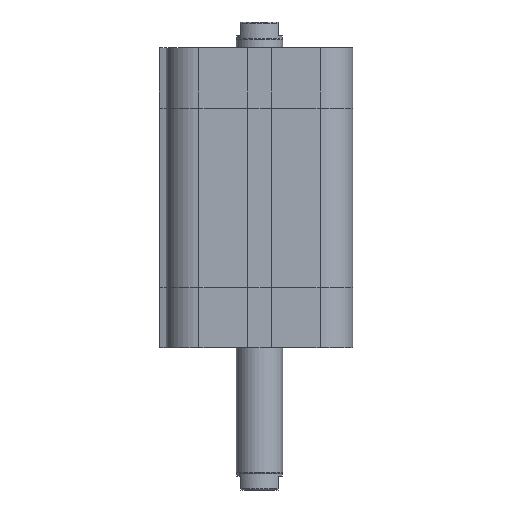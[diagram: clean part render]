
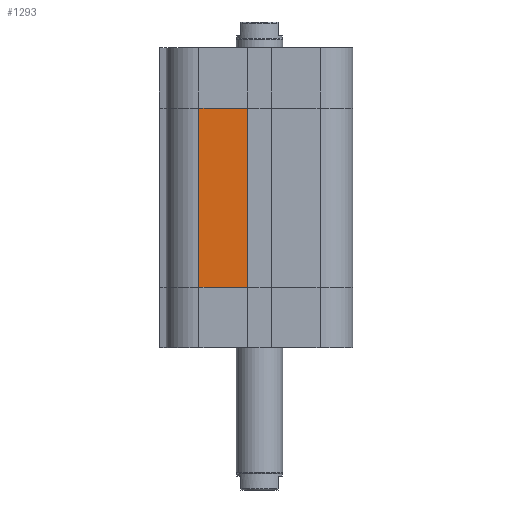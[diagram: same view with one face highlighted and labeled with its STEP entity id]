
A CAD part, left-side view. The second image highlights one B-rep face of the part: STEP entity #1293.
In plain terms, the highlighted planar face has unit normal (-1, 0, 0).
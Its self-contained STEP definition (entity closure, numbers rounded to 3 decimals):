
#1204=CARTESIAN_POINT('',(-20.,13.,13.));
#1205=VERTEX_POINT('',#1204);
#1213=CARTESIAN_POINT('',(-20.,13.,51.5));
#1214=VERTEX_POINT('',#1213);
#1215=CARTESIAN_POINT('',(-20.,13.,13.));
#1216=DIRECTION('',(0.0,0.0,1.0));
#1217=VECTOR('',#1216,38.5);
#1218=LINE('',#1215,#1217);
#1219=EDGE_CURVE('',#1205,#1214,#1218,.T.);
#1263=CARTESIAN_POINT('',(-20.0,2.6,0.0));
#1264=DIRECTION('',(-1.0,0.0,0.0));
#1265=DIRECTION('',(0.0,0.0,1.0));
#1266=AXIS2_PLACEMENT_3D('',#1263,#1264,#1265);
#1267=PLANE('',#1266);
#1268=CARTESIAN_POINT('',(-20.0,2.6,13.));
#1269=VERTEX_POINT('',#1268);
#1270=CARTESIAN_POINT('',(-20.,13.,13.));
#1271=DIRECTION('',(0.0,-1.0,0.0));
#1272=VECTOR('',#1271,10.4);
#1273=LINE('',#1270,#1272);
#1274=EDGE_CURVE('',#1205,#1269,#1273,.T.);
#1275=ORIENTED_EDGE('',*,*,#1274,.T.);
#1276=CARTESIAN_POINT('',(-20.0,2.6,51.5));
#1277=VERTEX_POINT('',#1276);
#1278=CARTESIAN_POINT('',(-20.0,2.6,13.));
#1279=DIRECTION('',(0.0,0.0,1.0));
#1280=VECTOR('',#1279,38.5);
#1281=LINE('',#1278,#1280);
#1282=EDGE_CURVE('',#1269,#1277,#1281,.T.);
#1283=ORIENTED_EDGE('',*,*,#1282,.T.);
#1284=CARTESIAN_POINT('',(-20.,13.,51.5));
#1285=DIRECTION('',(0.0,-1.0,0.0));
#1286=VECTOR('',#1285,10.4);
#1287=LINE('',#1284,#1286);
#1288=EDGE_CURVE('',#1214,#1277,#1287,.T.);
#1289=ORIENTED_EDGE('',*,*,#1288,.F.);
#1290=ORIENTED_EDGE('',*,*,#1219,.F.);
#1291=EDGE_LOOP('',(#1275,#1283,#1289,#1290));
#1292=FACE_OUTER_BOUND('',#1291,.T.);
#1293=ADVANCED_FACE('',(#1292),#1267,.T.);
